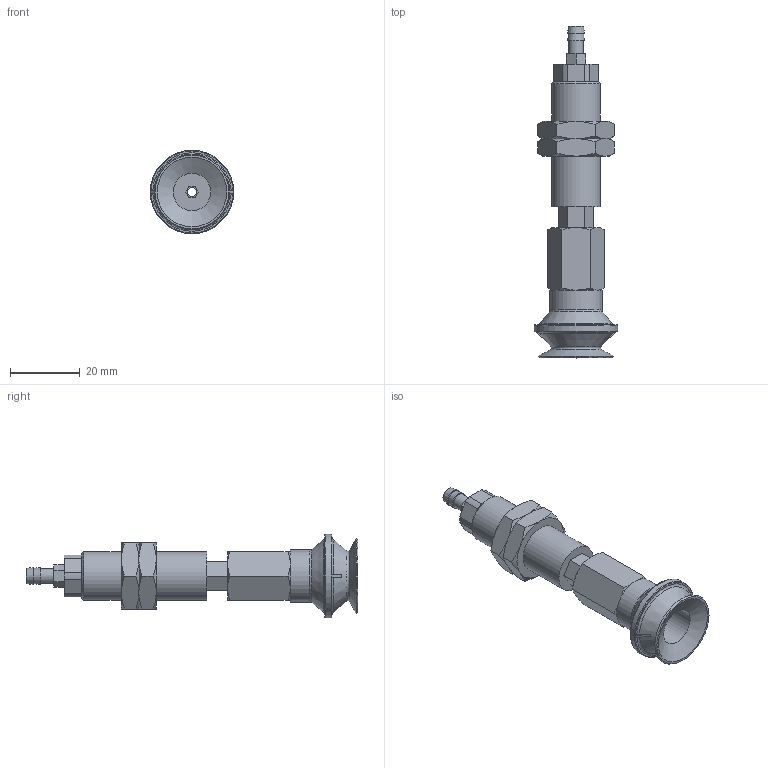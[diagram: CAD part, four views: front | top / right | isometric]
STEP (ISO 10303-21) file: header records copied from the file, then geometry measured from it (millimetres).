
FILE_DESCRIPTION(('STEP AP203'),'1');
FILE_NAME('-T.stp','2025-08-27T00:58:16',(' '),(' '),'Spatial InterOp 3D',' ',' ');
FILE_SCHEMA(('CONFIG_CONTROL_DESIGN'));
Length unit declared in the file: millimetre
Products named in the file (8): BNABPBTH-20-6-※-T; ADAPTER; NAPBTH-20-6-MBODY; Adapter20-T-NAPB; Nut-20-S-PB; NAPBTH-20-6-FBODY; BPBG-20-※; T
Assembly tree (8 placements, depth 2):
  BNABPBTH-20-6-※-T
    ADAPTER
    NAPBTH-20-6-MBODY
    Adapter20-T-NAPB
    Nut-20-S-PB  x2
    NAPBTH-20-6-FBODY
    BPBG-20-※
    T
Bounding box: 24 x 95.5 x 24 mm (x, y, z)
Volume: 14492.3 mm3; surface area: 11434.1 mm2
Topology: 8 solids, 8 shells, 167 faces, 367 edges, 227 vertices
Faces by surface type: plane 81, cone 54, cylinder 23, torus 9
Full cylindrical faces by diameter (mm): 2.5 x1, 3 x3, 4.134 x2, 4.3 x1, 4.6 x1, 5 x2, 10.8 x1, 11 x1, 12.917 x2, 14 x1, 15 x1, 24 x1
Entity records: 4344 total; most frequent: CARTESIAN_POINT 951, DIRECTION 634, ORIENTED_EDGE 544, EDGE_CURVE 272, AXIS2_PLACEMENT_3D 257, EDGE_LOOP 206, VERTEX_POINT 190, FACE_OUTER_BOUND 167
